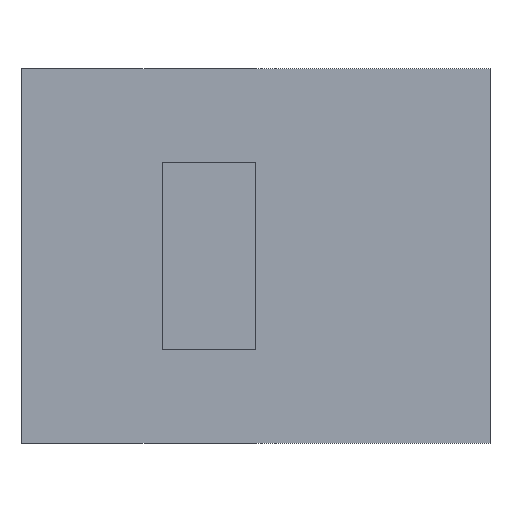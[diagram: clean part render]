
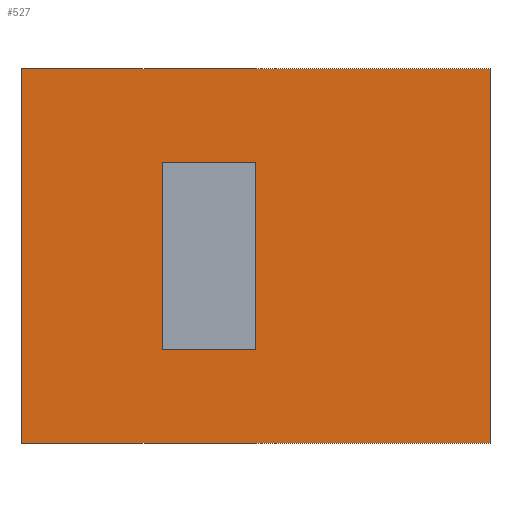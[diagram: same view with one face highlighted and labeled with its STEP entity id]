
A CAD part, front view. The second image highlights one B-rep face of the part: STEP entity #527.
In plain terms, the highlighted planar face has unit normal (0, -1, 0).
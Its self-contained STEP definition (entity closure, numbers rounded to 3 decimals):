
#18 = VERTEX_POINT ( 'NONE', #64 ) ;
#23 = VERTEX_POINT ( 'NONE', #66 ) ;
#25 = VERTEX_POINT ( 'NONE', #68 ) ;
#26 = VERTEX_POINT ( 'NONE', #63 ) ;
#28 = VERTEX_POINT ( 'NONE', #70 ) ;
#63 = CARTESIAN_POINT ( 'NONE',  ( 12.5, 0., -10. ) ) ;
#64 = CARTESIAN_POINT ( 'NONE',  ( -5., 0., -5. ) ) ;
#66 = CARTESIAN_POINT ( 'NONE',  ( -5., 0., 5. ) ) ;
#68 = CARTESIAN_POINT ( 'NONE',  ( 12.5, 0., 10. ) ) ;
#70 = CARTESIAN_POINT ( 'NONE',  ( -12.5, 0., 10. ) ) ;
#173 = ORIENTED_EDGE ( 'NONE', *, *, #586, .F. ) ;
#174 = ORIENTED_EDGE ( 'NONE', *, *, #593, .F. ) ;
#175 = ORIENTED_EDGE ( 'NONE', *, *, #594, .T. ) ;
#176 = ORIENTED_EDGE ( 'NONE', *, *, #589, .F. ) ;
#177 = ORIENTED_EDGE ( 'NONE', *, *, #581, .F. ) ;
#178 = ORIENTED_EDGE ( 'NONE', *, *, #579, .F. ) ;
#179 = ORIENTED_EDGE ( 'NONE', *, *, #577, .F. ) ;
#180 = ORIENTED_EDGE ( 'NONE', *, *, #582, .F. ) ;
#216 = FACE_OUTER_BOUND ( 'NONE', #634, .T. ) ;
#227 = FACE_BOUND ( 'NONE', #622, .T. ) ;
#299 = LINE ( 'NONE', #881, #308 ) ;
#301 = LINE ( 'NONE', #888, #304 ) ;
#304 = VECTOR ( 'NONE', #889, 1000. ) ;
#305 = LINE ( 'NONE', #885, #312 ) ;
#308 = VECTOR ( 'NONE', #893, 1000. ) ;
#311 = LINE ( 'NONE', #898, #314 ) ;
#312 = VECTOR ( 'NONE', #897, 1000. ) ;
#314 = VECTOR ( 'NONE', #900, 1000. ) ;
#319 = LINE ( 'NONE', #906, #322 ) ;
#322 = VECTOR ( 'NONE', #907, 1000. ) ;
#323 = LINE ( 'NONE', #904, #336 ) ;
#325 = LINE ( 'NONE', #912, #328 ) ;
#328 = VECTOR ( 'NONE', #913, 1000. ) ;
#335 = LINE ( 'NONE', #922, #338 ) ;
#336 = VECTOR ( 'NONE', #921, 1000. ) ;
#338 = VECTOR ( 'NONE', #924, 1000. ) ;
#347 = VERTEX_POINT ( 'NONE', #442 ) ;
#363 = VERTEX_POINT ( 'NONE', #465 ) ;
#379 = VERTEX_POINT ( 'NONE', #469 ) ;
#442 = CARTESIAN_POINT ( 'NONE',  ( -12.5, 0., -10. ) ) ;
#465 = CARTESIAN_POINT ( 'NONE',  ( 0., 0., 5. ) ) ;
#469 = CARTESIAN_POINT ( 'NONE',  ( 0., 0., -5. ) ) ;
#481 = AXIS2_PLACEMENT_3D ( 'NONE', #749, #756, #757 ) ;
#527 = ADVANCED_FACE ( 'NONE', ( #216, #227 ), #748, .F. ) ;
#577 = EDGE_CURVE ( 'NONE', #379, #363, #301, .T. ) ;
#579 = EDGE_CURVE ( 'NONE', #363, #23, #299, .T. ) ;
#581 = EDGE_CURVE ( 'NONE', #23, #18, #305, .T. ) ;
#582 = EDGE_CURVE ( 'NONE', #18, #379, #311, .T. ) ;
#586 = EDGE_CURVE ( 'NONE', #26, #347, #319, .T. ) ;
#589 = EDGE_CURVE ( 'NONE', #347, #28, #325, .T. ) ;
#593 = EDGE_CURVE ( 'NONE', #25, #26, #323, .T. ) ;
#594 = EDGE_CURVE ( 'NONE', #25, #28, #335, .T. ) ;
#622 = EDGE_LOOP ( 'NONE', ( #177, #178, #179, #180 ) ) ;
#634 = EDGE_LOOP ( 'NONE', ( #173, #174, #175, #176 ) ) ;
#748 = PLANE ( 'NONE',  #481 ) ;
#749 = CARTESIAN_POINT ( 'NONE',  ( 0., 0., 0. ) ) ;
#756 = DIRECTION ( 'NONE',  ( 0., 1., 0. ) ) ;
#757 = DIRECTION ( 'NONE',  ( 0., 0., 1. ) ) ;
#881 = CARTESIAN_POINT ( 'NONE',  ( 0., 0., 5. ) ) ;
#885 = CARTESIAN_POINT ( 'NONE',  ( -5., 0., 0. ) ) ;
#888 = CARTESIAN_POINT ( 'NONE',  ( 0., 0., 0. ) ) ;
#889 = DIRECTION ( 'NONE',  ( 0., 0., 1. ) ) ;
#893 = DIRECTION ( 'NONE',  ( -1., 0., 0. ) ) ;
#897 = DIRECTION ( 'NONE',  ( 0., 0., -1. ) ) ;
#898 = CARTESIAN_POINT ( 'NONE',  ( 0., 0., -5. ) ) ;
#900 = DIRECTION ( 'NONE',  ( 1., 0., 0. ) ) ;
#904 = CARTESIAN_POINT ( 'NONE',  ( 12.5, 0., 0. ) ) ;
#906 = CARTESIAN_POINT ( 'NONE',  ( 0., 0., -10. ) ) ;
#907 = DIRECTION ( 'NONE',  ( -1., 0., 0. ) ) ;
#912 = CARTESIAN_POINT ( 'NONE',  ( -12.5, 0., 0. ) ) ;
#913 = DIRECTION ( 'NONE',  ( 0., 0., 1. ) ) ;
#921 = DIRECTION ( 'NONE',  ( 0., 0., -1. ) ) ;
#922 = CARTESIAN_POINT ( 'NONE',  ( -12.5, 0., 10. ) ) ;
#924 = DIRECTION ( 'NONE',  ( -1., 0., 0. ) ) ;
